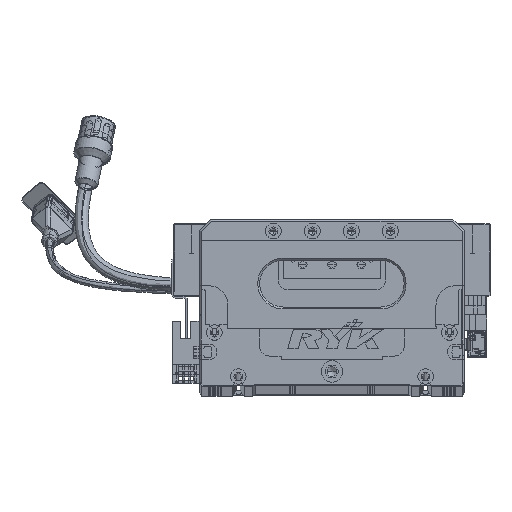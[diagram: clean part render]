
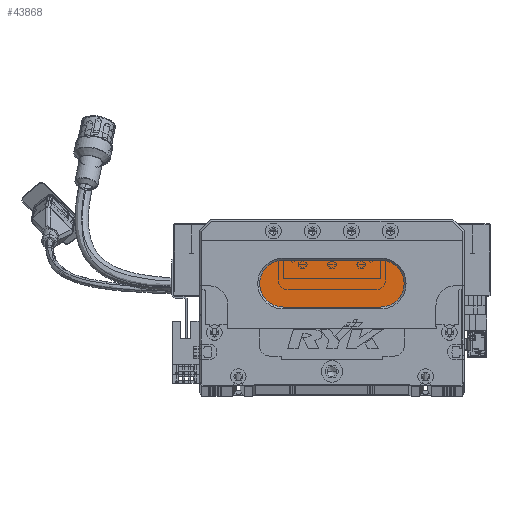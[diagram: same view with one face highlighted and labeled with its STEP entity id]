
A CAD part, top view. The second image highlights one B-rep face of the part: STEP entity #43868.
In plain terms, the highlighted planar face has unit normal (0, 0, 1) as drawn and (0, 0, -1) by its records, which use the part's own axes.
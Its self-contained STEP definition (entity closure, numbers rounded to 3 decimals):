
#920 = LINE ( 'NONE', #81330, #111712 ) ;
#4446 = DIRECTION ( 'NONE',  ( -1., 0., 0. ) ) ;
#5373 = DIRECTION ( 'NONE',  ( 0., 0., -1. ) ) ;
#5521 = DIRECTION ( 'NONE',  ( -1., 0., 0. ) ) ;
#6218 = AXIS2_PLACEMENT_3D ( 'NONE', #49718, #137065, #50621 ) ;
#10276 = EDGE_CURVE ( 'NONE', #83355, #134112, #920, .T. ) ;
#10890 = CIRCLE ( 'NONE', #6218, 12. ) ;
#16314 = VERTEX_POINT ( 'NONE', #50236 ) ;
#17612 = ORIENTED_EDGE ( 'NONE', *, *, #123234, .T. ) ;
#20527 = CIRCLE ( 'NONE', #127842, 12. ) ;
#23280 = AXIS2_PLACEMENT_3D ( 'NONE', #47730, #58531, #5521 ) ;
#23830 = DIRECTION ( 'NONE',  ( 0., 0., -1. ) ) ;
#24774 = CARTESIAN_POINT ( 'NONE',  ( 43., 52., 13. ) ) ;
#31040 = CARTESIAN_POINT ( 'NONE',  ( 31., 52., 13. ) ) ;
#38523 = EDGE_CURVE ( 'NONE', #131164, #83355, #20527, .T. ) ;
#38833 = ORIENTED_EDGE ( 'NONE', *, *, #76155, .T. ) ;
#42952 = LINE ( 'NONE', #137403, #93318 ) ;
#43813 = CIRCLE ( 'NONE', #23280, 12. ) ;
#43868 = ADVANCED_FACE ( 'NONE', ( #98775 ), #100638, .T. ) ;
#47254 = VERTEX_POINT ( 'NONE', #119607 ) ;
#47730 = CARTESIAN_POINT ( 'NONE',  ( 43., 52., 13. ) ) ;
#49718 = CARTESIAN_POINT ( 'NONE',  ( 93., 52., 13. ) ) ;
#50236 = CARTESIAN_POINT ( 'NONE',  ( 43., 40., 13. ) ) ;
#50339 = DIRECTION ( 'NONE',  ( 1., 0., 0. ) ) ;
#50621 = DIRECTION ( 'NONE',  ( -1., 0., 0. ) ) ;
#58531 = DIRECTION ( 'NONE',  ( 0., 0., -1. ) ) ;
#59220 = CARTESIAN_POINT ( 'NONE',  ( 93., 64., 13. ) ) ;
#73438 = DIRECTION ( 'NONE',  ( -1., 0., 0. ) ) ;
#76155 = EDGE_CURVE ( 'NONE', #16314, #131164, #43813, .T. ) ;
#81330 = CARTESIAN_POINT ( 'NONE',  ( 93., 64., 13. ) ) ;
#83355 = VERTEX_POINT ( 'NONE', #100572 ) ;
#91226 = CARTESIAN_POINT ( 'NONE',  ( 93., 52., 13. ) ) ;
#93318 = VECTOR ( 'NONE', #73438, 1000. ) ;
#96446 = ORIENTED_EDGE ( 'NONE', *, *, #124149, .T. ) ;
#98775 = FACE_OUTER_BOUND ( 'NONE', #99769, .T. ) ;
#99769 = EDGE_LOOP ( 'NONE', ( #96446, #17612, #38833, #109979, #108764 ) ) ;
#99870 = DIRECTION ( 'NONE',  ( -1., 0., 0. ) ) ;
#100572 = CARTESIAN_POINT ( 'NONE',  ( 43., 64., 13. ) ) ;
#100638 = PLANE ( 'NONE',  #110373 ) ;
#108764 = ORIENTED_EDGE ( 'NONE', *, *, #10276, .T. ) ;
#109979 = ORIENTED_EDGE ( 'NONE', *, *, #38523, .T. ) ;
#110373 = AXIS2_PLACEMENT_3D ( 'NONE', #91226, #5373, #4446 ) ;
#111712 = VECTOR ( 'NONE', #50339, 1000. ) ;
#119607 = CARTESIAN_POINT ( 'NONE',  ( 93., 40., 13. ) ) ;
#123234 = EDGE_CURVE ( 'NONE', #47254, #16314, #42952, .T. ) ;
#124149 = EDGE_CURVE ( 'NONE', #134112, #47254, #10890, .T. ) ;
#127842 = AXIS2_PLACEMENT_3D ( 'NONE', #24774, #23830, #99870 ) ;
#131164 = VERTEX_POINT ( 'NONE', #31040 ) ;
#134112 = VERTEX_POINT ( 'NONE', #59220 ) ;
#137065 = DIRECTION ( 'NONE',  ( 0., 0., -1. ) ) ;
#137403 = CARTESIAN_POINT ( 'NONE',  ( 93., 40., 13. ) ) ;
